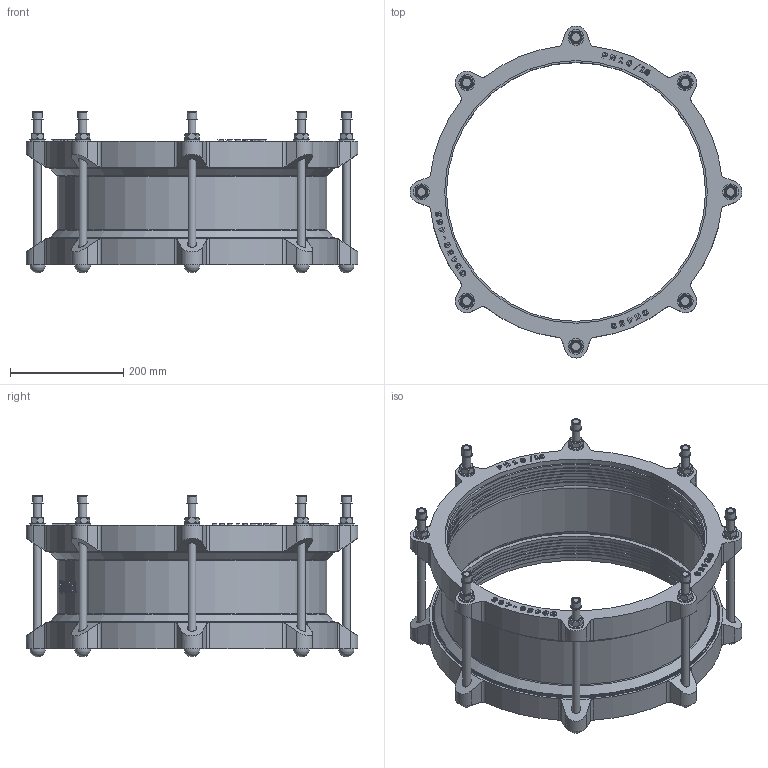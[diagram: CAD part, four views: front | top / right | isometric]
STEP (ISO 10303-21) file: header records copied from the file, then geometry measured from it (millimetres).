
FILE_DESCRIPTION(('STEP AP203'), '1');
FILE_NAME('Cîåäèíèòåëüíàÿ ìóôòà äëÿ æåñòêèõ òðóá', '', ('UNSPECIFIED'), ('UNSPECIFIED'), 'C3D Converter', 'C3D Toolkit', '');
FILE_SCHEMA(('CONFIG_CONTROL_DESIGN'));
Length unit declared in the file: millimetre
Assembly tree (37 placements, depth 2):
  (unnamed)
    (unnamed)
    (unnamed)  x8
    (unnamed)  x8
    (unnamed)  x8
    (unnamed)  x8
    (unnamed)
    (unnamed)
    (unnamed)  x2
Bounding box: 585 x 585 x 285.4 mm (x, y, z)
Volume: 6627493.1 mm3; surface area: 1570013.3 mm2
Topology: 41 solids, 41 shells, 988 faces, 2429 edges, 1590 vertices
Faces by surface type: plane 391, extrusion 328, cylinder 173, cone 62, torus 26, sphere 8
Full cylindrical faces by diameter (mm): 14 x24, 15 x8, 16 x16, 16.8 x8, 19.6 x8, 23.29 x1, 28 x8, 456.5 x8, 459.75 x6, 463 x3, 469 x2, 475 x3, 502 x2, 505 x4
Entity records: 36383 total; most frequent: CARTESIAN_POINT 13714, ORIENTED_EDGE 3862, DIRECTION 2619, EDGE_CURVE 1931, VERTEX_POINT 1316, VECTOR 1243, B_SPLINE_CURVE_WITH_KNOTS 1088, EDGE_LOOP 931
